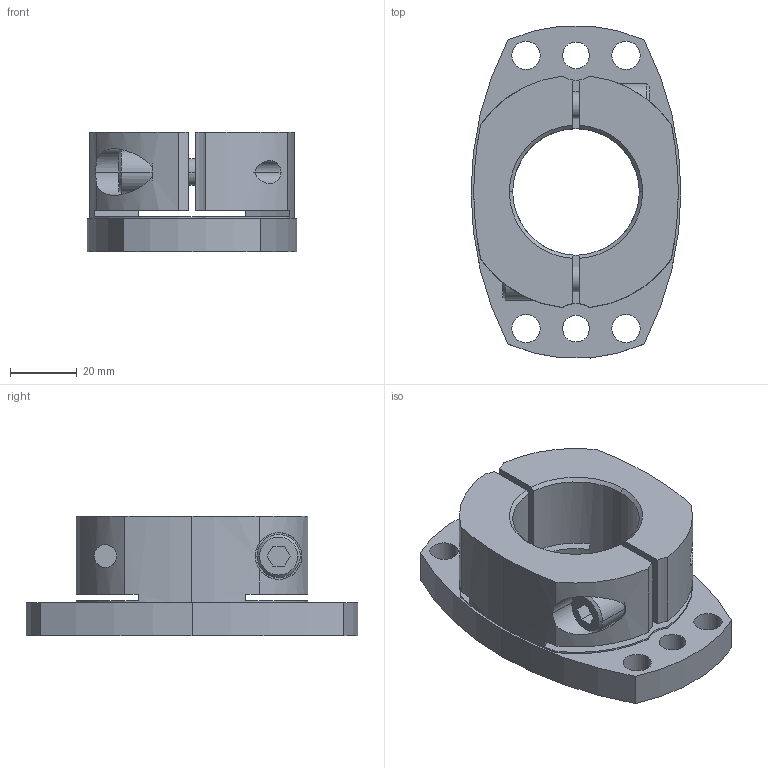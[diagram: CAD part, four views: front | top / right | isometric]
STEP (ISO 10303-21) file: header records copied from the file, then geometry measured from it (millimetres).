
FILE_DESCRIPTION((''),'2;1');
FILE_NAME('SHDB-100B-38.stp','2026-01-28T08:42:50',(''),(''),'AutoCAD STEP 2000i','AutoCAD 2000i',', , ');
FILE_SCHEMA(('CONFIG_CONTROL_DESIGN'));
Length unit declared in the file: millimetre
Products named in the file (2): SHDB-100B-38; 忣兜1
Assembly tree (1 placements, depth 2):
  SHDB-100B-38
    忣兜1
Bounding box: 63 x 99.64 x 36 mm (x, y, z)
Volume: 96342.8 mm3; surface area: 27981.1 mm2
Topology: 1 solids, 1 shells, 102 faces, 274 edges, 180 vertices
Faces by surface type: cylinder 58, plane 34, cone 10
Entity records: 3625 total; most frequent: CARTESIAN_POINT 826, DIRECTION 600, ORIENTED_EDGE 548, EDGE_CURVE 274, AXIS2_PLACEMENT_3D 238, VERTEX_POINT 180, CIRCLE 134, EDGE_LOOP 126
